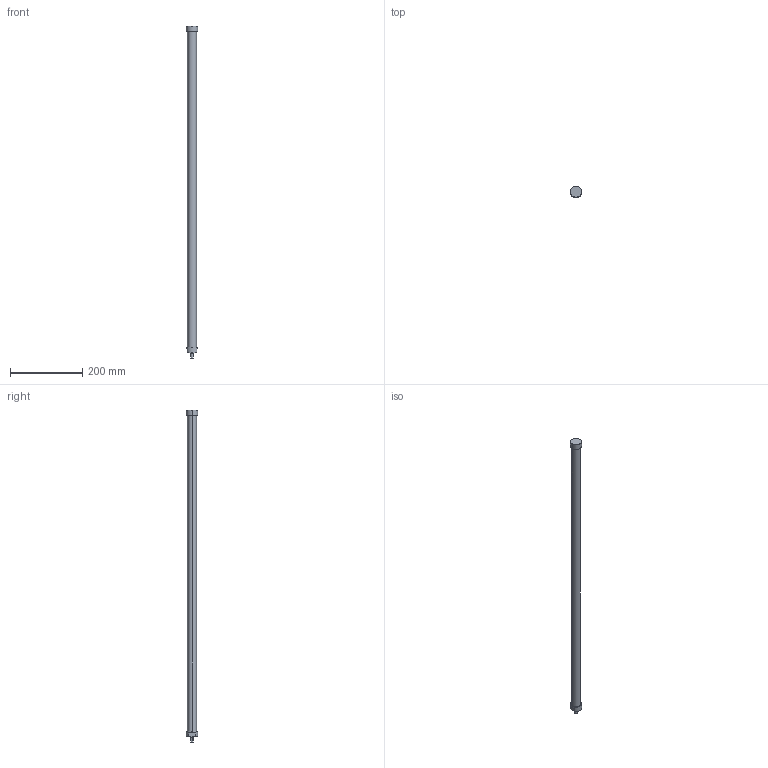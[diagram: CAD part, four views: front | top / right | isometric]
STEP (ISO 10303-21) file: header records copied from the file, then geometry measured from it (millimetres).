
FILE_DESCRIPTION(('STEP AP214'),'1');
FILE_NAME('ETT-R050M914.stp','2015-07-20T08:00:02',(' '),(' '),'Spatial InterOp 3D',' ',' ');
FILE_SCHEMA(('automotive_design'));
Length unit declared in the file: metre
Products named in the file (2): 1; 2
Bounding box: 31 x 31 x 919 mm (x, y, z)
Volume: 451848.3 mm3; surface area: 74237 mm2
Topology: 1 solids, 4 shells, 20 faces, 48 edges, 36 vertices
Faces by surface type: cylinder 10, plane 10
Entity records: 812 total; most frequent: DIRECTION 120, CARTESIAN_POINT 106, ORIENTED_EDGE 84, AXIS2_PLACEMENT_3D 50, EDGE_CURVE 48, VERTEX_POINT 36, CIRCLE 28, EDGE_LOOP 24
